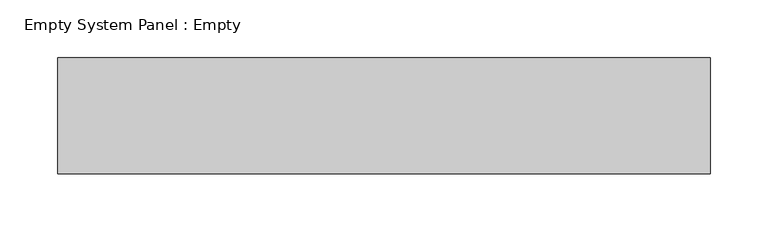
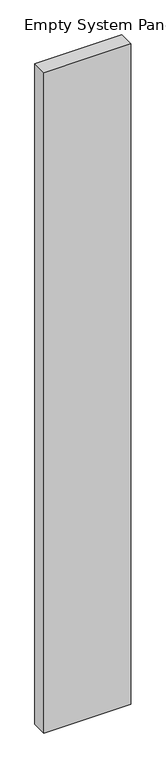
"""IFC4 building model written with IfcOpenShell, lengths in millimetres: plate geometry, Empty System Panel : Empty."""

from ifc_helpers import new_model, si_unit, origin, origin_with_axes, place, context, project, spatial, polyline, outline, extrude, source, transform, mapped, element, save


def empty_system_panel_empty_b9b0326a(model_context):
    return source(origin(), model_context, "Body", "SweptSolid", [
        extrude(outline(polyline([(281.25, -50.0), (-281.25, -50.0), (-281.25, 50.0), (281.25, 50.0), (281.25, -50.0)])), origin_with_axes(), (0.0, 0.0, 1.0), 4510.0),
    ])


if __name__ == "__main__":
    model = new_model("IFC4")
    model_context = context("Model", 3, world=origin())
    ifc_project = project(units=[si_unit("LENGTHUNIT", "METRE", prefix="MILLI")], contexts=[model_context])
    site = spatial("IfcSite", under=ifc_project)
    building = spatial("IfcBuilding", under=site)
    placement = place(None, origin())
    empty_system_panel_empty_shape = empty_system_panel_empty_b9b0326a(model_context)
    element("IfcPlate", 1, ObjectType="Empty System Panel : Empty", at=placement, inside=building, context=model_context, shape_type="MappedRepresentation", body=[
        mapped(empty_system_panel_empty_shape, transform((0.0, 0.0, 0.0), x_axis=(1.0, 0.0, 0.0), y_axis=(0.0, 1.0, 0.0), z_axis=(0.0, 0.0, 1.0))),
    ])
    save(model, "model.ifc")
